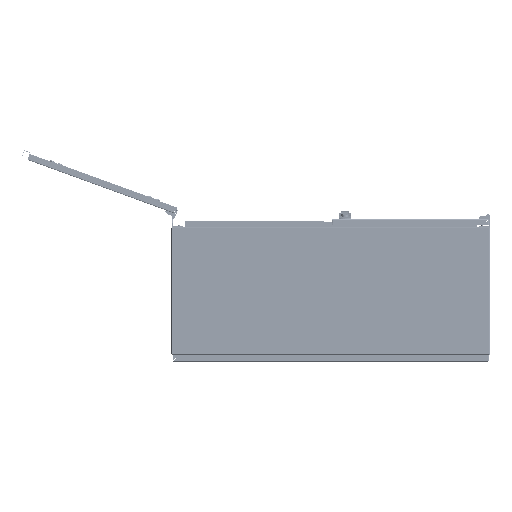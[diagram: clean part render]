
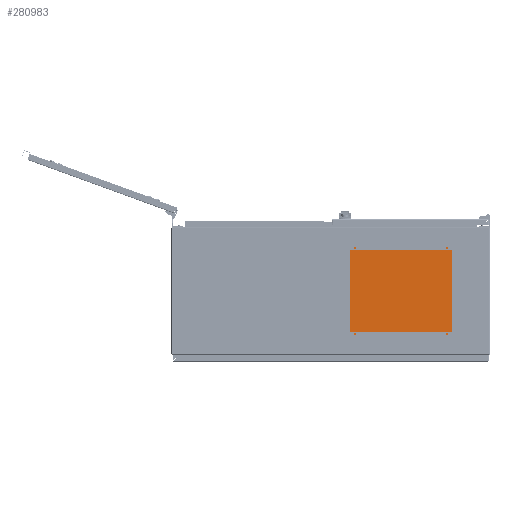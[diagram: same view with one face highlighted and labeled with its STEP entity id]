
A CAD part, front view. The second image highlights one B-rep face of the part: STEP entity #280983.
In plain terms, the highlighted planar face has unit normal (0, -1, 0).
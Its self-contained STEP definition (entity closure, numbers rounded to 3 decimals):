
#248218 = CARTESIAN_POINT ( 'NONE',  ( 75., 2003., 135.5 ) ) ;
#248253 = CARTESIAN_POINT ( 'NONE',  ( 75., 2003., -134.5 ) ) ;
#248376 = CARTESIAN_POINT ( 'NONE',  ( 75., 2003., 134.5 ) ) ;
#248379 = DIRECTION ( 'NONE',  ( 0., 0., -1. ) ) ;
#248383 = DIRECTION ( 'NONE',  ( 0., -1., 0. ) ) ;
#248385 = CARTESIAN_POINT ( 'NONE',  ( 75., 2003., 135. ) ) ;
#248386 = AXIS2_PLACEMENT_3D ( 'NONE', #248385, #248383, #248379 ) ;
#248387 = CIRCLE ( 'NONE', #248386, 0.5 ) ;
#248920 = DIRECTION ( 'NONE',  ( 0., 0., -1. ) ) ;
#248922 = DIRECTION ( 'NONE',  ( 0., 1., 0. ) ) ;
#248924 = CARTESIAN_POINT ( 'NONE',  ( 365., 2003., -135. ) ) ;
#248925 = AXIS2_PLACEMENT_3D ( 'NONE', #248924, #248922, #248920 ) ;
#248928 = CIRCLE ( 'NONE', #248925, 0.5 ) ;
#248953 = CARTESIAN_POINT ( 'NONE',  ( 365., 2003., -134.5 ) ) ;
#249109 = CARTESIAN_POINT ( 'NONE',  ( 365., 2003., -135.5 ) ) ;
#249287 = CARTESIAN_POINT ( 'NONE',  ( 75., 2003., -135.5 ) ) ;
#249289 = DIRECTION ( 'NONE',  ( 0., 0., -1. ) ) ;
#249292 = DIRECTION ( 'NONE',  ( 0., 1., 0. ) ) ;
#249293 = CARTESIAN_POINT ( 'NONE',  ( 75., 2003., -135. ) ) ;
#249294 = AXIS2_PLACEMENT_3D ( 'NONE', #249293, #249292, #249289 ) ;
#249296 = CIRCLE ( 'NONE', #249294, 0.5 ) ;
#249403 = CARTESIAN_POINT ( 'NONE',  ( 365., 2003., 134.5 ) ) ;
#249404 = DIRECTION ( 'NONE',  ( 0., 0., -1. ) ) ;
#249408 = DIRECTION ( 'NONE',  ( 0., 1., 0. ) ) ;
#249409 = CARTESIAN_POINT ( 'NONE',  ( 365., 2003., 135. ) ) ;
#249410 = AXIS2_PLACEMENT_3D ( 'NONE', #249409, #249408, #249404 ) ;
#249412 = CIRCLE ( 'NONE', #249410, 0.5 ) ;
#249444 = CARTESIAN_POINT ( 'NONE',  ( 365., 2003., 135.5 ) ) ;
#251353 = DIRECTION ( 'NONE',  ( 0.707, 0., 0.707 ) ) ;
#251355 = VECTOR ( 'NONE', #251353, 1000. ) ;
#251357 = CARTESIAN_POINT ( 'NONE',  ( 409.939, 2003., -159.939 ) ) ;
#251359 = LINE ( 'NONE', #251357, #251355 ) ;
#251363 = CARTESIAN_POINT ( 'NONE',  ( 410.536, 2003., -159.343 ) ) ;
#251456 = CARTESIAN_POINT ( 'NONE',  ( 30.657, 2003., -160.536 ) ) ;
#251458 = CARTESIAN_POINT ( 'NONE',  ( 29.464, 2003., -159.343 ) ) ;
#251569 = CARTESIAN_POINT ( 'NONE',  ( 409.343, 2003., -160.536 ) ) ;
#251608 = CARTESIAN_POINT ( 'NONE',  ( 409.343, 2003., 160.536 ) ) ;
#251611 = CARTESIAN_POINT ( 'NONE',  ( 410.536, 2003., 159.343 ) ) ;
#251614 = DIRECTION ( 'NONE',  ( -0.707, 0., 0.707 ) ) ;
#251616 = VECTOR ( 'NONE', #251614, 1000. ) ;
#251618 = CARTESIAN_POINT ( 'NONE',  ( 409.939, 2003., 159.939 ) ) ;
#251619 = LINE ( 'NONE', #251618, #251616 ) ;
#251801 = VECTOR ( 'NONE', #252779, 1000. ) ;
#252090 = VECTOR ( 'NONE', #252286, 1000. ) ;
#252092 = CARTESIAN_POINT ( 'NONE',  ( 30.061, 2003., 159.939 ) ) ;
#252093 = LINE ( 'NONE', #252092, #252090 ) ;
#252134 = CARTESIAN_POINT ( 'NONE',  ( 29.464, 2003., 159.343 ) ) ;
#252164 = DIRECTION ( 'NONE',  ( 0.707, 0., -0.707 ) ) ;
#252166 = VECTOR ( 'NONE', #252164, 1000. ) ;
#252168 = CARTESIAN_POINT ( 'NONE',  ( 30.061, 2003., -159.939 ) ) ;
#252170 = LINE ( 'NONE', #252168, #252166 ) ;
#252279 = CARTESIAN_POINT ( 'NONE',  ( 30.657, 2003., 160.536 ) ) ;
#252286 = DIRECTION ( 'NONE',  ( -0.707, 0., -0.707 ) ) ;
#252563 = CARTESIAN_POINT ( 'NONE',  ( 220., 2003., -160.536 ) ) ;
#252565 = LINE ( 'NONE', #252563, #251801 ) ;
#252679 = DIRECTION ( 'NONE',  ( 0., 0., 1. ) ) ;
#252681 = VECTOR ( 'NONE', #252679, 1000. ) ;
#252684 = CARTESIAN_POINT ( 'NONE',  ( 410.536, 2003., 0. ) ) ;
#252686 = LINE ( 'NONE', #252684, #252681 ) ;
#252779 = DIRECTION ( 'NONE',  ( 1., 0., 0. ) ) ;
#253139 = DIRECTION ( 'NONE',  ( 0., 0., -1. ) ) ;
#253141 = DIRECTION ( 'NONE',  ( 0., 1., 0. ) ) ;
#253143 = CARTESIAN_POINT ( 'NONE',  ( 365., 2003., -135. ) ) ;
#253144 = AXIS2_PLACEMENT_3D ( 'NONE', #253143, #253141, #253139 ) ;
#253147 = CIRCLE ( 'NONE', #253144, 0.5 ) ;
#253183 = CIRCLE ( 'NONE', #253362, 0.5 ) ;
#253198 = CARTESIAN_POINT ( 'NONE',  ( 365., 2003., 135. ) ) ;
#253278 = DIRECTION ( 'NONE',  ( -1., 0., 0. ) ) ;
#253281 = VECTOR ( 'NONE', #253278, 1000. ) ;
#253283 = CARTESIAN_POINT ( 'NONE',  ( 220., 2003., 160.536 ) ) ;
#253299 = LINE ( 'NONE', #253283, #253281 ) ;
#253359 = DIRECTION ( 'NONE',  ( 0., 0., -1. ) ) ;
#253361 = DIRECTION ( 'NONE',  ( 0., 1., 0. ) ) ;
#253362 = AXIS2_PLACEMENT_3D ( 'NONE', #253198, #253361, #253359 ) ;
#253377 = DIRECTION ( 'NONE',  ( 0., 0., -1. ) ) ;
#253379 = VECTOR ( 'NONE', #253377, 1000. ) ;
#253382 = CARTESIAN_POINT ( 'NONE',  ( 29.464, 2003., 0. ) ) ;
#253383 = LINE ( 'NONE', #253382, #253379 ) ;
#253724 = DIRECTION ( 'NONE',  ( 0., 0., -1. ) ) ;
#253726 = DIRECTION ( 'NONE',  ( 0., 1., 0. ) ) ;
#253729 = CARTESIAN_POINT ( 'NONE',  ( 75., 2003., -135. ) ) ;
#253730 = AXIS2_PLACEMENT_3D ( 'NONE', #253729, #253726, #253724 ) ;
#253732 = CIRCLE ( 'NONE', #253730, 0.5 ) ;
#253739 = DIRECTION ( 'NONE',  ( 0., 0., -1. ) ) ;
#253741 = DIRECTION ( 'NONE',  ( 0., -1., 0. ) ) ;
#253744 = AXIS2_PLACEMENT_3D ( 'NONE', #253765, #253741, #253739 ) ;
#253746 = CIRCLE ( 'NONE', #253744, 0.5 ) ;
#253765 = CARTESIAN_POINT ( 'NONE',  ( 75., 2003., 135. ) ) ;
#253821 = FACE_OUTER_BOUND ( 'NONE', #280957, .T. ) ;
#253822 = FACE_BOUND ( 'NONE', #280945, .T. ) ;
#253825 = FACE_BOUND ( 'NONE', #280939, .T. ) ;
#253827 = FACE_BOUND ( 'NONE', #280797, .T. ) ;
#253829 = FACE_BOUND ( 'NONE', #280989, .T. ) ;
#253957 = DIRECTION ( 'NONE',  ( 1., 0., 0. ) ) ;
#253959 = DIRECTION ( 'NONE',  ( 0., -1., 0. ) ) ;
#253961 = CARTESIAN_POINT ( 'NONE',  ( 29.464, 2003., -160.536 ) ) ;
#253963 = AXIS2_PLACEMENT_3D ( 'NONE', #253961, #253959, #253957 ) ;
#253970 = PLANE ( 'NONE',  #253963 ) ;
#279394 = VERTEX_POINT ( 'NONE', #248253 ) ;
#279406 = VERTEX_POINT ( 'NONE', #248218 ) ;
#279422 = EDGE_CURVE ( 'NONE', #279406, #279425, #248387, .T. ) ;
#279425 = VERTEX_POINT ( 'NONE', #248376 ) ;
#279608 = VERTEX_POINT ( 'NONE', #248953 ) ;
#279620 = EDGE_CURVE ( 'NONE', #279623, #279608, #248928, .T. ) ;
#279623 = VERTEX_POINT ( 'NONE', #249109 ) ;
#279676 = EDGE_CURVE ( 'NONE', #279678, #279394, #249296, .T. ) ;
#279678 = VERTEX_POINT ( 'NONE', #249287 ) ;
#279748 = VERTEX_POINT ( 'NONE', #249444 ) ;
#279754 = EDGE_CURVE ( 'NONE', #279757, #279748, #249412, .T. ) ;
#279757 = VERTEX_POINT ( 'NONE', #249403 ) ;
#280259 = VERTEX_POINT ( 'NONE', #251363 ) ;
#280264 = EDGE_CURVE ( 'NONE', #280347, #280259, #251359, .T. ) ;
#280293 = VERTEX_POINT ( 'NONE', #251458 ) ;
#280296 = VERTEX_POINT ( 'NONE', #251456 ) ;
#280347 = VERTEX_POINT ( 'NONE', #251569 ) ;
#280375 = EDGE_CURVE ( 'NONE', #280377, #280382, #251619, .T. ) ;
#280377 = VERTEX_POINT ( 'NONE', #251611 ) ;
#280382 = VERTEX_POINT ( 'NONE', #251608 ) ;
#280488 = EDGE_CURVE ( 'NONE', #280293, #280296, #252170, .T. ) ;
#280512 = VERTEX_POINT ( 'NONE', #252134 ) ;
#280524 = EDGE_CURVE ( 'NONE', #280533, #280512, #252093, .T. ) ;
#280533 = VERTEX_POINT ( 'NONE', #252279 ) ;
#280698 = EDGE_CURVE ( 'NONE', #280296, #280347, #252565, .T. ) ;
#280716 = EDGE_CURVE ( 'NONE', #280259, #280377, #252686, .T. ) ;
#280792 = ORIENTED_EDGE ( 'NONE', *, *, #280964, .T. ) ;
#280797 = EDGE_LOOP ( 'NONE', ( #280798, #280935 ) ) ;
#280798 = ORIENTED_EDGE ( 'NONE', *, *, #279620, .T. ) ;
#280803 = EDGE_CURVE ( 'NONE', #279608, #279623, #253147, .T. ) ;
#280846 = EDGE_CURVE ( 'NONE', #279748, #279757, #253183, .T. ) ;
#280870 = EDGE_CURVE ( 'NONE', #280382, #280533, #253299, .T. ) ;
#280887 = EDGE_CURVE ( 'NONE', #280512, #280293, #253383, .T. ) ;
#280908 = ORIENTED_EDGE ( 'NONE', *, *, #280698, .T. ) ;
#280909 = ORIENTED_EDGE ( 'NONE', *, *, #280264, .T. ) ;
#280911 = ORIENTED_EDGE ( 'NONE', *, *, #280716, .T. ) ;
#280913 = ORIENTED_EDGE ( 'NONE', *, *, #280375, .T. ) ;
#280915 = ORIENTED_EDGE ( 'NONE', *, *, #280870, .T. ) ;
#280935 = ORIENTED_EDGE ( 'NONE', *, *, #280803, .T. ) ;
#280939 = EDGE_LOOP ( 'NONE', ( #280940, #280941 ) ) ;
#280940 = ORIENTED_EDGE ( 'NONE', *, *, #279754, .T. ) ;
#280941 = ORIENTED_EDGE ( 'NONE', *, *, #280846, .T. ) ;
#280945 = EDGE_LOOP ( 'NONE', ( #280948, #280951 ) ) ;
#280948 = ORIENTED_EDGE ( 'NONE', *, *, #280950, .F. ) ;
#280950 = EDGE_CURVE ( 'NONE', #279425, #279406, #253746, .T. ) ;
#280951 = ORIENTED_EDGE ( 'NONE', *, *, #279422, .F. ) ;
#280957 = EDGE_LOOP ( 'NONE', ( #280960, #280962, #280963, #280908, #280909, #280911, #280913, #280915 ) ) ;
#280960 = ORIENTED_EDGE ( 'NONE', *, *, #280524, .T. ) ;
#280962 = ORIENTED_EDGE ( 'NONE', *, *, #280887, .T. ) ;
#280963 = ORIENTED_EDGE ( 'NONE', *, *, #280488, .T. ) ;
#280964 = EDGE_CURVE ( 'NONE', #279394, #279678, #253732, .T. ) ;
#280983 = ADVANCED_FACE ( 'NONE', ( #253829, #253827, #253825, #253822, #253821 ), #253970, .T. ) ;
#280989 = EDGE_LOOP ( 'NONE', ( #280992, #280792 ) ) ;
#280992 = ORIENTED_EDGE ( 'NONE', *, *, #279676, .T. ) ;
